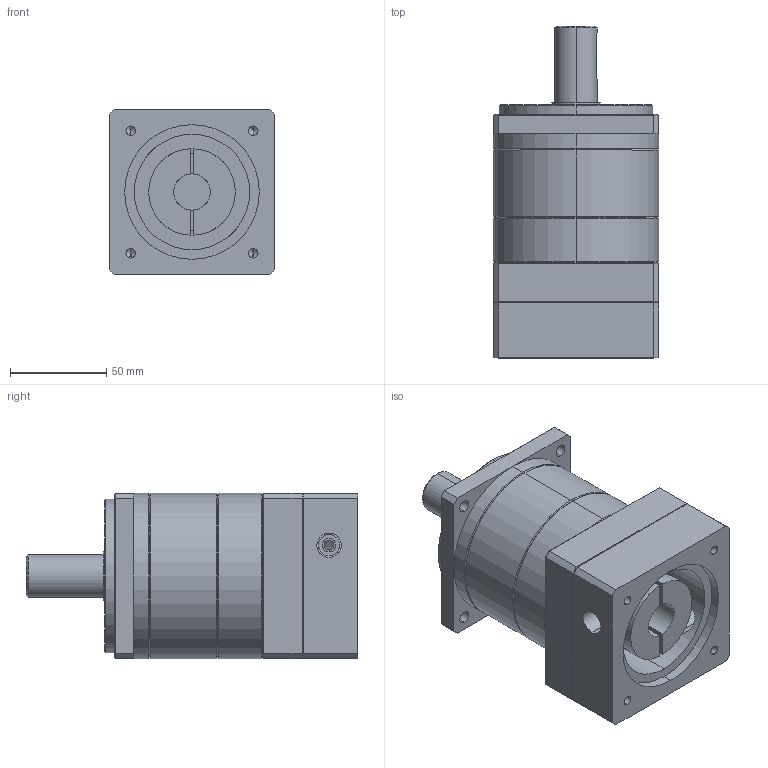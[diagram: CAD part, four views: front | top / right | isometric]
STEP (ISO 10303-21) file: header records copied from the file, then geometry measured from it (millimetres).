
FILE_DESCRIPTION (( 'STEP AP203' ), '1' );
FILE_NAME ('MF90X-L2£r70PCD£r90M6.STEP', '2014-04-16T00:54:44', ( 'KELLY' ), ( '' ), 'SwSTEP 2.0', 'SolidWorks 2012', '' );
FILE_SCHEMA (( 'CONFIG_CONTROL_DESIGN' ));
Length unit declared in the file: millimetre
Products named in the file (1): MF90X-L2｣r70PCD｣r90M6
Bounding box: 86 x 172.5 x 86 mm (x, y, z)
Volume: 774484.6 mm3; surface area: 116414.3 mm2
Topology: 5 solids, 5 shells, 164 faces, 384 edges, 233 vertices
Faces by surface type: cylinder 70, plane 58, cone 36
Entity records: 5227 total; most frequent: CARTESIAN_POINT 1354, DIRECTION 828, ORIENTED_EDGE 748, EDGE_CURVE 374, AXIS2_PLACEMENT_3D 327, VERTEX_POINT 233, EDGE_LOOP 199, LINE 174
